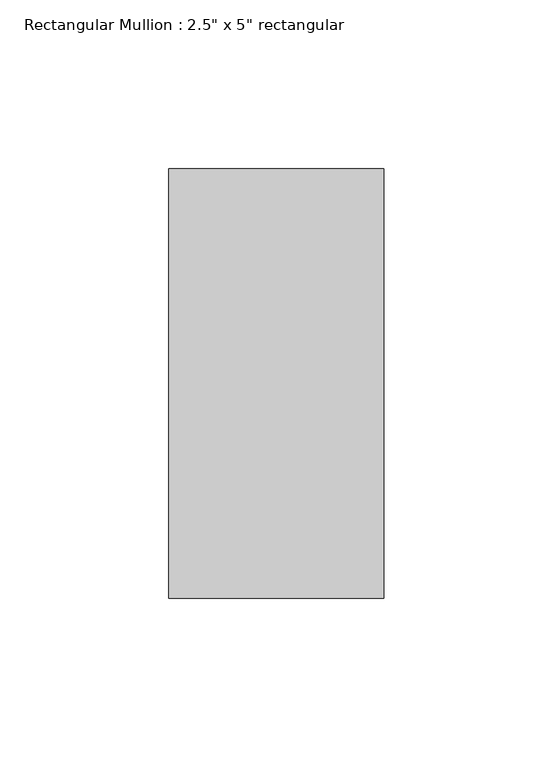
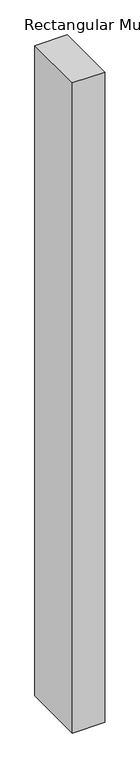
"""IFC4 building model written with IfcOpenShell, lengths in millimetres: member geometry."""

from ifc_helpers import new_model, si_unit, frame, origin, place, context, project, spatial, polyline, outline, extrude, source, transform, mapped, element, save


def member_be05218b(model_context):
    return source(origin(), model_context, "Body", "SweptSolid", [
        extrude(outline(polyline([(31.75, 63.5), (31.75, -63.5), (-31.75, -63.5), (-31.75, 63.5), (31.75, 63.5)])), frame((0.0, 0.0, -1344.0833334), z_axis=(0.0, 0.0, 1.0), x_axis=(1.0, 0.0, 0.0)), (0.0, 0.0, 1.0), 1344.0833334),
    ])


if __name__ == "__main__":
    model = new_model("IFC4")
    model_context = context("Model", 3, world=origin())
    ifc_project = project(units=[si_unit("LENGTHUNIT", "METRE", prefix="MILLI")], contexts=[model_context])
    site = spatial("IfcSite", under=ifc_project)
    building = spatial("IfcBuilding", under=site)
    placement = place(None, origin())
    member_shape = member_be05218b(model_context)
    element("IfcMember", 1, ObjectType="Rectangular Mullion : 2.5\" x 5\" rectangular", at=placement, inside=building, context=model_context, shape_type="MappedRepresentation", body=[
        mapped(member_shape, transform((0.0, 0.0, 0.0), x_axis=(1.0, 0.0, 0.0), y_axis=(0.0, 1.0, 0.0), z_axis=(0.0, 0.0, 1.0))),
    ])
    save(model, "model.ifc")
